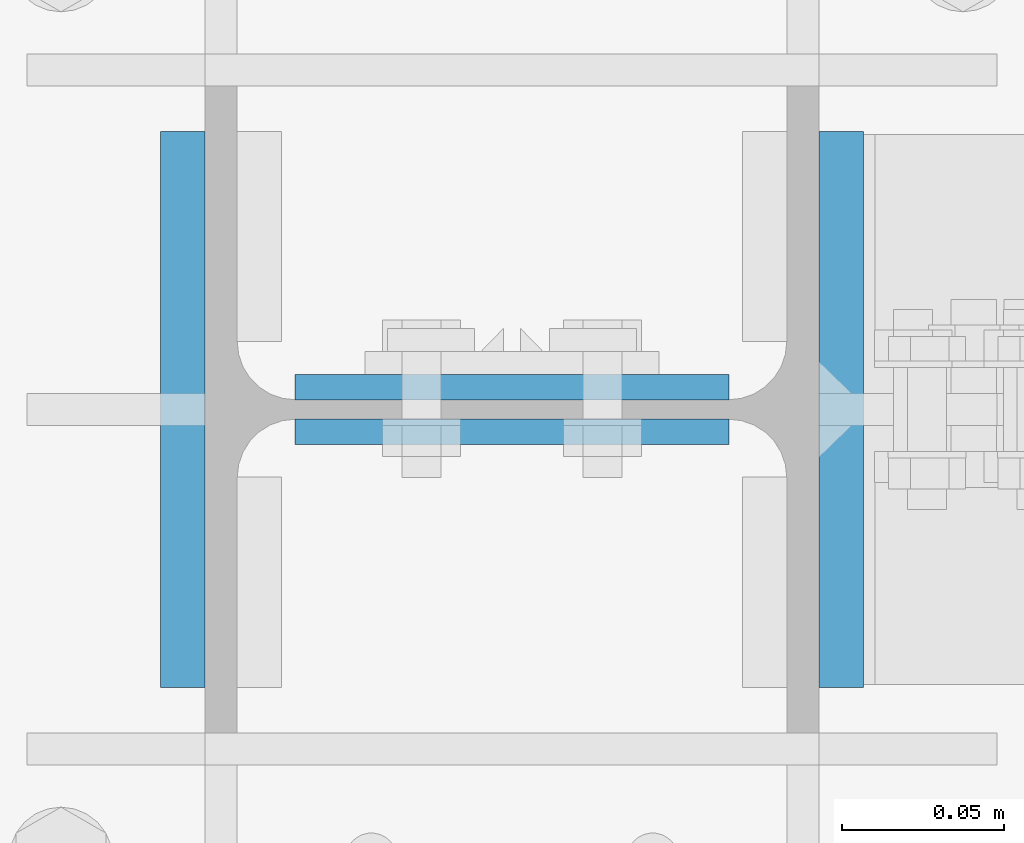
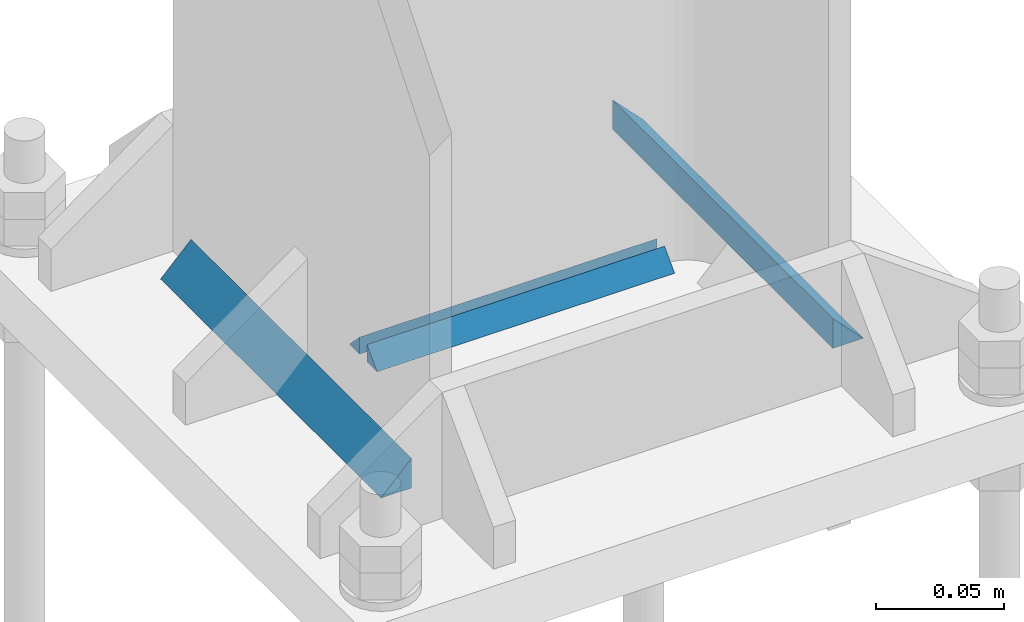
# One storey, part 20 of 251: 8 fasteners.
"""IFC4 building model written with IfcOpenShell, lengths in metres."""

from ifc_helpers import new_model, si_unit, frame, origin_with_axes, place, context, project, spatial, polyline, outline, extrude, type_object, element, save


model = new_model("IFC4")

# Units and contexts
model_context = context("Model", 3, precision=1e-05, world=origin_with_axes())
ifc_project = project(units=[si_unit("LENGTHUNIT", "METRE"), si_unit("AREAUNIT", "SQUARE_METRE"), si_unit("VOLUMEUNIT", "CUBIC_METRE"), si_unit("MASSUNIT", "GRAM", prefix="KILO"), si_unit("TIMEUNIT", "SECOND"), si_unit("PLANEANGLEUNIT", "RADIAN"), si_unit("SOLIDANGLEUNIT", "STERADIAN"), si_unit("THERMODYNAMICTEMPERATUREUNIT", "DEGREE_CELSIUS")], contexts=[model_context])

# Site, building, storey
placement_1 = place(None, origin_with_axes())
site = spatial("IfcSite", under=ifc_project, at=placement_1, Name="Italia", CompositionType="ELEMENT")
building = spatial("IfcBuilding", under=site, at=placement_1, Name="Deposito", CompositionType="ELEMENT")
storey = spatial("IfcBuildingStorey", under=building, at=placement_1, Name="Storey 0", CompositionType="ELEMENT", Elevation=0.0)

# Fasteners
fastener_type_1 = type_object("IfcFastenerType", Name="Collegamenti 0014_-001 0016_-054 0018_-056 0032_-002 0033_-058 0047_-003 0048_-060 0062_-004 0063_-005 0079_-008", PredefinedType="WELD")
placement_2 = place(placement_1, origin_with_axes())
fastener_1_placement = place(placement_2, origin_with_axes())
element("IfcFastener", 1, at=fastener_1_placement, inside=storey, type_object=fastener_type_1, Name="Collegamenti 0014_-001 0016_-054 0018_-056 0032_-002 0033_-058 0047_-003 0048_-060 0062_-004 0063_-005 0079_-008", context=model_context, shape_type="SweptSolid", body=[
    extrude(outline(polyline([(0.0, 0.0), (0.0137482, 0.0141734), (0.0137482, 0.0), (0.0, 0.0)])), frame((5.9413, 0.08605, 0.07495), z_axis=(0.0, -1.0, 0.0), x_axis=(1.0, 0.0, 0.0)), (0.0, 0.0, 1.0), 0.1721),
])
fastener_type_2 = type_object("IfcFastenerType", Name="Collegamenti 0014_-001 0016_-054 0018_-056 0032_-002 0033_-058 0047_-003 0048_-060 0062_-004 0063_-005 0079_-008", PredefinedType="WELD")
fastener_2_placement = place(placement_2, origin_with_axes())
element("IfcFastener", 2, at=fastener_2_placement, inside=storey, type_object=fastener_type_2, Name="Collegamenti 0014_-001 0016_-054 0018_-056 0032_-002 0033_-058 0047_-003 0048_-060 0062_-004 0063_-005 0079_-008", context=model_context, shape_type="SweptSolid", body=[
    extrude(outline(polyline([(0.0, 0.0), (0.0137482, 0.0141734), (0.0137482, 0.0), (0.0, 0.0)])), frame((6.1587, -0.08605, 0.07495), z_axis=(0.0, 1.0, 0.0), x_axis=(-1.0, 0.0, 0.0)), (0.0, 0.0, 1.0), 0.1721),
])
fastener_type_3 = type_object("IfcFastenerType", Name="Collegamenti 0014_-001 0016_-054 0018_-056 0032_-002 0033_-058 0047_-003 0048_-060 0062_-004 0063_-005 0079_-008", PredefinedType="WELD")
fastener_3_placement = place(placement_2, origin_with_axes())
element("IfcFastener", 3, at=fastener_3_placement, inside=storey, type_object=fastener_type_3, Name="Collegamenti 0014_-001 0016_-054 0018_-056 0032_-002 0033_-058 0047_-003 0048_-060 0062_-004 0063_-005 0079_-008", context=model_context, shape_type="SweptSolid", body=[
    extrude(outline(polyline([(0.0, 0.0), (0.00792816, 0.00817336), (0.00792816, 0.0), (0.0, 0.0)])), frame((6.11705, 0.0108782, 0.07495), z_axis=(-1.0, 0.0, 0.0), x_axis=(0.0, -1.0, 0.0)), (0.0, 0.0, 1.0), 0.134098),
])
fastener_type_4 = type_object("IfcFastenerType", Name="Collegamenti 0014_-001 0016_-054 0018_-056 0032_-002 0033_-058 0047_-003 0048_-060 0062_-004 0063_-005 0079_-008", PredefinedType="WELD")
fastener_4_placement = place(placement_2, origin_with_axes())
element("IfcFastener", 4, at=fastener_4_placement, inside=storey, type_object=fastener_type_4, Name="Collegamenti 0014_-001 0016_-054 0018_-056 0032_-002 0033_-058 0047_-003 0048_-060 0062_-004 0063_-005 0079_-008", context=model_context, shape_type="SweptSolid", body=[
    extrude(outline(polyline([(0.0, 0.0), (0.00792816, 0.00817336), (0.00792816, 0.0), (0.0, 0.0)])), frame((5.98295, -0.0108782, 0.07495), z_axis=(1.0, 0.0, 0.0), x_axis=(0.0, 1.0, 0.0)), (0.0, 0.0, 1.0), 0.134098),
])
fastener_type_5 = type_object("IfcFastenerType", Name="Collegamenti 0014_-001 0016_-054 0018_-056 0032_-002 0033_-058 0047_-003 0048_-060 0062_-004 0063_-005 0079_-008", PredefinedType="WELD")
fastener_5_placement = place(placement_2, origin_with_axes())
element("IfcFastener", 5, at=fastener_5_placement, inside=storey, type_object=fastener_type_5, Name="Collegamenti 0014_-001 0016_-054 0018_-056 0032_-002 0033_-058 0047_-003 0048_-060 0062_-004 0063_-005 0079_-008", context=model_context, shape_type="SweptSolid", body=[
    extrude(outline(polyline([(0.0, 0.0), (0.0137482, 0.0141734), (0.0137482, 0.0), (0.0, 0.0)])), frame((5.9413, 0.08605, 0.07495), z_axis=(0.0, -1.0, 0.0), x_axis=(1.0, 0.0, 0.0)), (0.0, 0.0, 1.0), 0.1721),
])
fastener_type_6 = type_object("IfcFastenerType", Name="Collegamenti 0014_-001 0016_-054 0018_-056 0032_-002 0033_-058 0047_-003 0048_-060 0062_-004 0063_-005 0079_-008", PredefinedType="WELD")
fastener_6_placement = place(placement_2, origin_with_axes())
element("IfcFastener", 6, at=fastener_6_placement, inside=storey, type_object=fastener_type_6, Name="Collegamenti 0014_-001 0016_-054 0018_-056 0032_-002 0033_-058 0047_-003 0048_-060 0062_-004 0063_-005 0079_-008", context=model_context, shape_type="SweptSolid", body=[
    extrude(outline(polyline([(0.0, 0.0), (0.0137482, 0.0141734), (0.0137482, 0.0), (0.0, 0.0)])), frame((6.1587, -0.08605, 0.07495), z_axis=(0.0, 1.0, 0.0), x_axis=(-1.0, 0.0, 0.0)), (0.0, 0.0, 1.0), 0.1721),
])
fastener_type_7 = type_object("IfcFastenerType", Name="Collegamenti 0014_-001 0016_-054 0018_-056 0032_-002 0033_-058 0047_-003 0048_-060 0062_-004 0063_-005 0079_-008", PredefinedType="WELD")
fastener_7_placement = place(placement_2, origin_with_axes())
element("IfcFastener", 7, at=fastener_7_placement, inside=storey, type_object=fastener_type_7, Name="Collegamenti 0014_-001 0016_-054 0018_-056 0032_-002 0033_-058 0047_-003 0048_-060 0062_-004 0063_-005 0079_-008", context=model_context, shape_type="SweptSolid", body=[
    extrude(outline(polyline([(0.0, 0.0), (0.00792816, 0.00817336), (0.00792816, 0.0), (0.0, 0.0)])), frame((6.11705, 0.0108782, 0.07495), z_axis=(-1.0, 0.0, 0.0), x_axis=(0.0, -1.0, 0.0)), (0.0, 0.0, 1.0), 0.134098),
])
fastener_type_8 = type_object("IfcFastenerType", Name="Collegamenti 0014_-001 0016_-054 0018_-056 0032_-002 0033_-058 0047_-003 0048_-060 0062_-004 0063_-005 0079_-008", PredefinedType="WELD")
fastener_8_placement = place(placement_2, origin_with_axes())
element("IfcFastener", 8, at=fastener_8_placement, inside=storey, type_object=fastener_type_8, Name="Collegamenti 0014_-001 0016_-054 0018_-056 0032_-002 0033_-058 0047_-003 0048_-060 0062_-004 0063_-005 0079_-008", context=model_context, shape_type="SweptSolid", body=[
    extrude(outline(polyline([(0.0, 0.0), (0.00792816, 0.00817336), (0.00792816, 0.0), (0.0, 0.0)])), frame((5.98295, -0.0108782, 0.07495), z_axis=(1.0, 0.0, 0.0), x_axis=(0.0, 1.0, 0.0)), (0.0, 0.0, 1.0), 0.134098),
])

save(model, "model.ifc")
